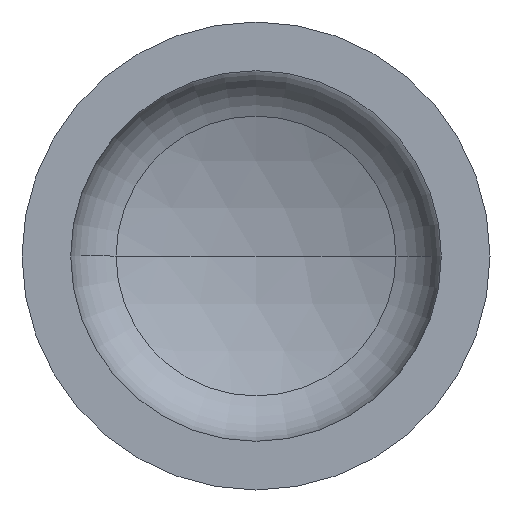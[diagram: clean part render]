
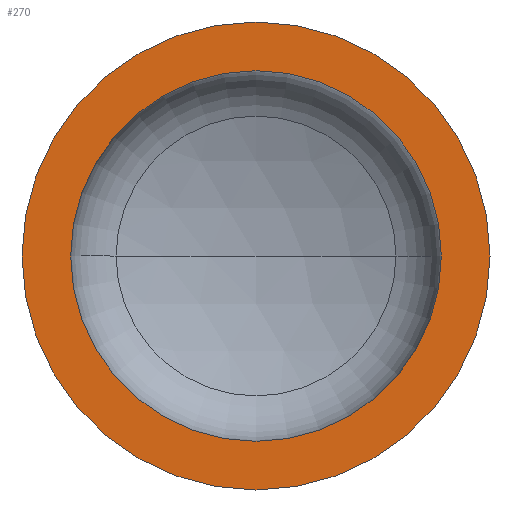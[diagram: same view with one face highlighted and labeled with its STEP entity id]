
A CAD part, front view. The second image highlights one B-rep face of the part: STEP entity #270.
In plain terms, the highlighted planar face has unit normal (0, -1, 0).
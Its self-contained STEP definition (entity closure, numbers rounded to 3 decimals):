
#1 = AXIS2_PLACEMENT_3D ( 'NONE', #201, #389, #229 ) ;
#15 = AXIS2_PLACEMENT_3D ( 'NONE', #122, #382, #374 ) ;
#16 = AXIS2_PLACEMENT_3D ( 'NONE', #94, #89, #90 ) ;
#44 = AXIS2_PLACEMENT_3D ( 'NONE', #308, #303, #300 ) ;
#48 = AXIS2_PLACEMENT_3D ( 'NONE', #180, #179, #316 ) ;
#55 = EDGE_CURVE ( 'NONE', #98, #79, #304, .T. ) ;
#56 = EDGE_CURVE ( 'NONE', #321, #234, #145, .T. ) ;
#72 = CARTESIAN_POINT ( 'NONE',  ( 396., 0., 0. ) ) ;
#79 = VERTEX_POINT ( 'NONE', #169 ) ;
#89 = DIRECTION ( 'NONE',  ( 0., -1., 0. ) ) ;
#90 = DIRECTION ( 'NONE',  ( 1., 0., 0. ) ) ;
#93 = CIRCLE ( 'NONE', #16, 396. ) ;
#94 = CARTESIAN_POINT ( 'NONE',  ( 0., 0., 0. ) ) ;
#98 = VERTEX_POINT ( 'NONE', #241 ) ;
#115 = CARTESIAN_POINT ( 'NONE',  ( -396., 0., 0. ) ) ;
#122 = CARTESIAN_POINT ( 'NONE',  ( -500., 0., 0. ) ) ;
#126 = PLANE ( 'NONE',  #15 ) ;
#145 = CIRCLE ( 'NONE', #44, 396. ) ;
#169 = CARTESIAN_POINT ( 'NONE',  ( 500., 0., 0. ) ) ;
#179 = DIRECTION ( 'NONE',  ( 0., -1., 0. ) ) ;
#180 = CARTESIAN_POINT ( 'NONE',  ( 0., 0., 0. ) ) ;
#182 = EDGE_LOOP ( 'NONE', ( #359, #411 ) ) ;
#201 = CARTESIAN_POINT ( 'NONE',  ( 0., 0., 0. ) ) ;
#220 = EDGE_LOOP ( 'NONE', ( #375, #255 ) ) ;
#229 = DIRECTION ( 'NONE',  ( 1., 0., 0. ) ) ;
#234 = VERTEX_POINT ( 'NONE', #115 ) ;
#241 = CARTESIAN_POINT ( 'NONE',  ( -500., 0., 0. ) ) ;
#249 = FACE_BOUND ( 'NONE', #220, .T. ) ;
#255 = ORIENTED_EDGE ( 'NONE', *, *, #272, .F. ) ;
#270 = ADVANCED_FACE ( 'NONE', ( #249, #393 ), #126, .F. ) ;
#272 = EDGE_CURVE ( 'NONE', #234, #321, #93, .T. ) ;
#297 = CIRCLE ( 'NONE', #1, 500. ) ;
#300 = DIRECTION ( 'NONE',  ( 1., 0., 0. ) ) ;
#303 = DIRECTION ( 'NONE',  ( 0., -1., 0. ) ) ;
#304 = CIRCLE ( 'NONE', #48, 500. ) ;
#308 = CARTESIAN_POINT ( 'NONE',  ( 0., 0., 0. ) ) ;
#316 = DIRECTION ( 'NONE',  ( 1., 0., 0. ) ) ;
#321 = VERTEX_POINT ( 'NONE', #72 ) ;
#348 = EDGE_CURVE ( 'NONE', #79, #98, #297, .T. ) ;
#359 = ORIENTED_EDGE ( 'NONE', *, *, #348, .T. ) ;
#374 = DIRECTION ( 'NONE',  ( -1., 0., 0. ) ) ;
#375 = ORIENTED_EDGE ( 'NONE', *, *, #56, .F. ) ;
#382 = DIRECTION ( 'NONE',  ( 0., 1., 0. ) ) ;
#389 = DIRECTION ( 'NONE',  ( 0., -1., 0. ) ) ;
#393 = FACE_OUTER_BOUND ( 'NONE', #182, .T. ) ;
#411 = ORIENTED_EDGE ( 'NONE', *, *, #55, .T. ) ;
